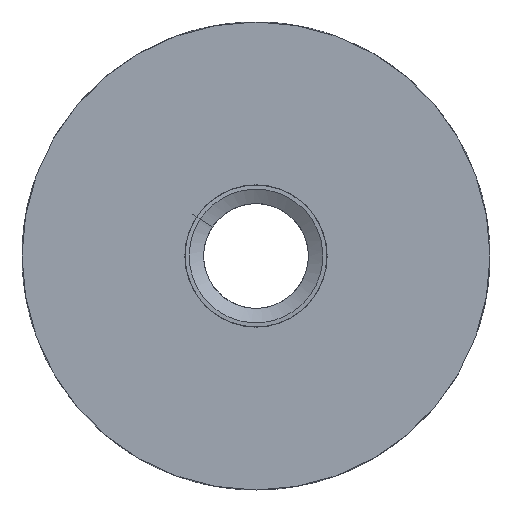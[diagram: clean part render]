
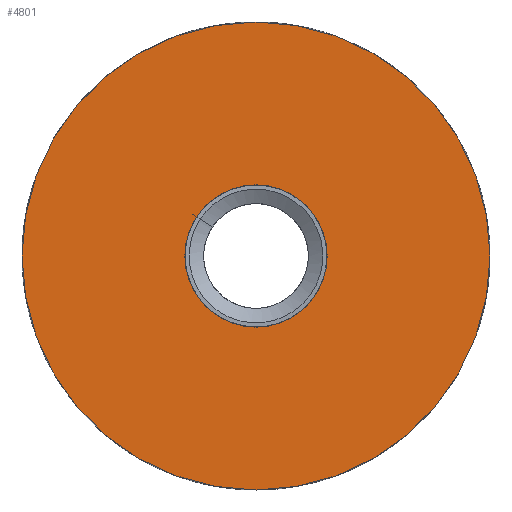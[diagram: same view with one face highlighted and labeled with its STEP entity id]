
A CAD part, left-side view. The second image highlights one B-rep face of the part: STEP entity #4801.
In plain terms, the highlighted planar face has unit normal (-1, 0, 0).
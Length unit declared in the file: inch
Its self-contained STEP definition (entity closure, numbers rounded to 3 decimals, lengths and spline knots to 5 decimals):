
#706 = CARTESIAN_POINT ( 'NONE',  ( 0.4325, 0., 0.133 ) ) ;
#764 = DIRECTION ( 'NONE',  ( 0., 0., -1. ) ) ;
#793 = DIRECTION ( 'NONE',  ( -1., 0., 0. ) ) ;
#808 = CARTESIAN_POINT ( 'NONE',  ( 0.4325, 0., 0. ) ) ;
#1103 = CIRCLE ( 'NONE', #4216, 0.133 ) ;
#1169 = DIRECTION ( 'NONE',  ( 0., 0., -1. ) ) ;
#1188 = DIRECTION ( 'NONE',  ( -1., 0., 0. ) ) ;
#1204 = CARTESIAN_POINT ( 'NONE',  ( 0.4325, 0., 0. ) ) ;
#1263 = DIRECTION ( 'NONE',  ( 0., 0., 1. ) ) ;
#1281 = DIRECTION ( 'NONE',  ( -1., 0., 0. ) ) ;
#1346 = CARTESIAN_POINT ( 'NONE',  ( 0.4325, 0., 0. ) ) ;
#1512 = CIRCLE ( 'NONE', #4244, 0.4375 ) ;
#1634 = CARTESIAN_POINT ( 'NONE',  ( 0.4325, -0.4375, 0. ) ) ;
#1734 = DIRECTION ( 'NONE',  ( 0., 0., -1. ) ) ;
#1750 = DIRECTION ( 'NONE',  ( 1., 0., 0. ) ) ;
#1764 = CARTESIAN_POINT ( 'NONE',  ( 0.4325, -1., -0.4375 ) ) ;
#1892 = CIRCLE ( 'NONE', #4348, 0.133 ) ;
#1970 = PLANE ( 'NONE',  #3143 ) ;
#2061 = CARTESIAN_POINT ( 'NONE',  ( 0.4325, 0., -0.133 ) ) ;
#2136 = EDGE_LOOP ( 'NONE', ( #4271, #2658 ) ) ;
#2215 = EDGE_LOOP ( 'NONE', ( #3468, #3444 ) ) ;
#2658 = ORIENTED_EDGE ( 'NONE', *, *, #4540, .T. ) ;
#3143 = AXIS2_PLACEMENT_3D ( 'NONE', #1764, #1750, #1734 ) ;
#3444 = ORIENTED_EDGE ( 'NONE', *, *, #4378, .F. ) ;
#3468 = ORIENTED_EDGE ( 'NONE', *, *, #4576, .F. ) ;
#4136 = CARTESIAN_POINT ( 'NONE',  ( 0.4325, 0.4375, 0. ) ) ;
#4216 = AXIS2_PLACEMENT_3D ( 'NONE', #4687, #4668, #4644 ) ;
#4244 = AXIS2_PLACEMENT_3D ( 'NONE', #808, #793, #764 ) ;
#4271 = ORIENTED_EDGE ( 'NONE', *, *, #4389, .T. ) ;
#4290 = VERTEX_POINT ( 'NONE', #2061 ) ;
#4346 = AXIS2_PLACEMENT_3D ( 'NONE', #1204, #1188, #1169 ) ;
#4348 = AXIS2_PLACEMENT_3D ( 'NONE', #1346, #1281, #1263 ) ;
#4378 = EDGE_CURVE ( 'NONE', #4290, #4942, #1892, .T. ) ;
#4389 = EDGE_CURVE ( 'NONE', #5201, #5211, #5078, .T. ) ;
#4540 = EDGE_CURVE ( 'NONE', #5211, #5201, #1512, .T. ) ;
#4576 = EDGE_CURVE ( 'NONE', #4942, #4290, #1103, .T. ) ;
#4644 = DIRECTION ( 'NONE',  ( 0., 0., 1. ) ) ;
#4668 = DIRECTION ( 'NONE',  ( -1., 0., 0. ) ) ;
#4687 = CARTESIAN_POINT ( 'NONE',  ( 0.4325, 0., 0. ) ) ;
#4801 = ADVANCED_FACE ( 'NONE', ( #5151, #5024 ), #1970, .F. ) ;
#4942 = VERTEX_POINT ( 'NONE', #706 ) ;
#5024 = FACE_OUTER_BOUND ( 'NONE', #2136, .T. ) ;
#5078 = CIRCLE ( 'NONE', #4346, 0.4375 ) ;
#5151 = FACE_BOUND ( 'NONE', #2215, .T. ) ;
#5201 = VERTEX_POINT ( 'NONE', #1634 ) ;
#5211 = VERTEX_POINT ( 'NONE', #4136 ) ;
